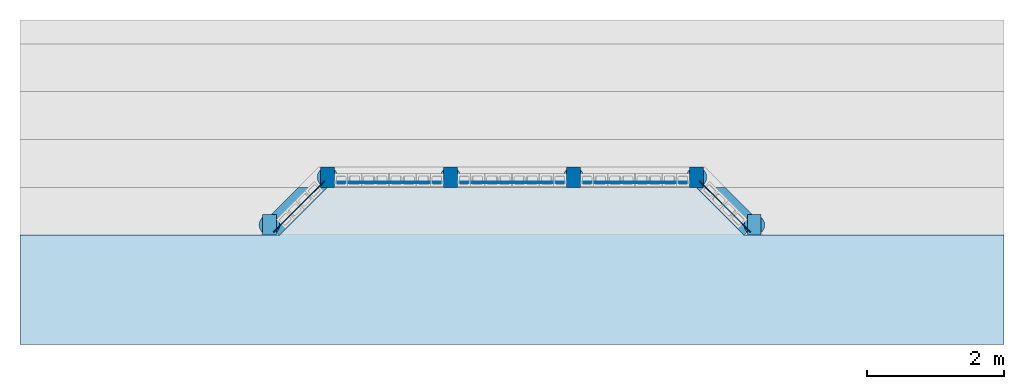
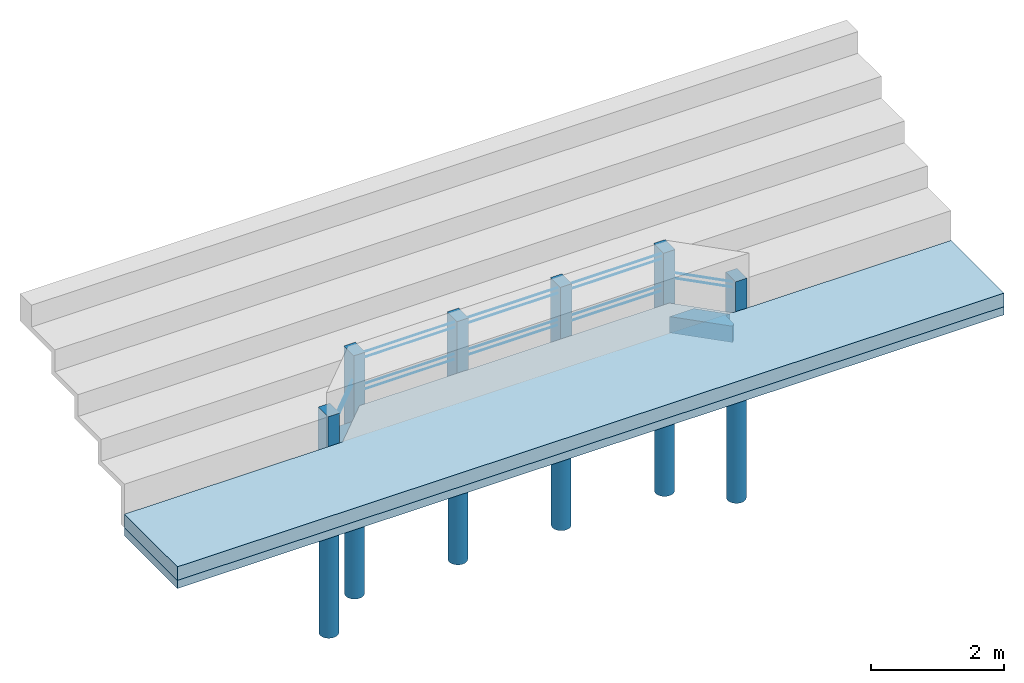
# One storey, part 1 of 4: 16 reinforcing bars, 8 slabs, 6 columns, 2 beams.
"""IFC4 building model written with IfcOpenShell, lengths in centimetres."""

from ifc_helpers import new_model, entity, si_unit, converted_unit, derived_unit, direction, frame, origin, place, context, subcontext, project, spatial, arc, indexed_curve, outline, extrude, polygons, source, transform, mapped, material, type_object, type_shapes, element, save


model = new_model("IFC4")

# Units and contexts
model_context = context("Model", 3, precision=0.001, world=origin(), true_north=direction((6.123233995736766e-17, 1.0)))
body_context = subcontext(model_context, "Body", "Model", "MODEL_VIEW")
ifc_project = project(units=[si_unit("LENGTHUNIT", "METRE", prefix="CENTI"), si_unit("AREAUNIT", "SQUARE_METRE"), converted_unit("PLANEANGLEUNIT", "DEGREE", entity("IfcPlaneAngleMeasure", 0.017453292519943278), si_unit("PLANEANGLEUNIT", "RADIAN"), dimensions=[0, 0, 0, 0, 0, 0, 0]), si_unit("VOLUMEUNIT", "CUBIC_METRE"), derived_unit("THERMALTRANSMITTANCEUNIT", [(si_unit("MASSUNIT", "GRAM", prefix="KILO"), 1), (si_unit("THERMODYNAMICTEMPERATUREUNIT", "KELVIN"), -1), (si_unit("TIMEUNIT", "SECOND"), -3)])], contexts=[model_context])

# Site, building, storey
site_placement = place(None, origin())
site = spatial("IfcSite", under=ifc_project, at=site_placement, Name="Default", CompositionType="ELEMENT")
building_placement = place(site_placement, origin())
building = spatial("IfcBuilding", under=site, at=building_placement, Name="CONTENÇÃO DE ARQUIBANCADA - GINÁSIO PADRÃO", CompositionType="ELEMENT")
storey_placement = place(building_placement, origin())
storey = spatial("IfcBuildingStorey", under=building, at=storey_placement, Name="Nível 1", CompositionType="ELEMENT", Elevation=0.0)

# Columns
ifc_material_1 = material(Name="Concreto C-30", Category="Concreto")
column_type_1 = type_object("IfcColumnType", Name="M_Concreto-Retangular-Coluna1:20x30", PredefinedType="COLUMN", material=ifc_material_1)
shared_shape_1 = source(origin(), body_context, "Body", "SweptSolid", [
    extrude(outline(indexed_curve([(-10.012684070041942, -17.999999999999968), (9.987315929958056, -17.999999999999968), (9.987315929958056, 12.000000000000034), (0.05073628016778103, 12.000000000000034), (-10.012684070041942, 12.000000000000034), (-10.012684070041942, -17.999999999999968)], self_intersect=False)), frame((14.442632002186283, 246.07417522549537, -30.0), z_axis=(0.0, 0.0, 1.0), x_axis=(-1.0, 0.0, 0.0)), (0.0, 0.0, 1.0), 150.0),
])
type_shapes(column_type_1, [shared_shape_1])
column_1_placement = place(storey_placement, origin())
element("IfcColumn", 1, at=column_1_placement, inside=storey, type_object=column_type_1, material=ifc_material_1, Name="M_Concreto-Retangular-Coluna1:20x30", ObjectType="M_Concreto-Retangular-Coluna1:20x30", PredefinedType="COLUMN", context=body_context, shape_type="MappedRepresentation", body=[
    mapped(shared_shape_1, transform((0.0, 0.0, 0.0), scale=1.0)),
])
column_type_2 = type_object("IfcColumnType", Name="M_Concreto-Retangular-Coluna1:20x30", PredefinedType="COLUMN", material=ifc_material_1)
shared_shape_2 = source(origin(), body_context, "Body", "SweptSolid", [
    extrude(outline(indexed_curve([(-7.9057286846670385, -14.165820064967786), (-0.4713565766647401, -14.165820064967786), (12.094271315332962, -14.165820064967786), (12.094271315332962, 15.834179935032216), (-7.9057286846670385, 15.834179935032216), (-7.9057286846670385, 10.829100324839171), (-7.9057286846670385, -14.165820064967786)], self_intersect=False)), frame((-68.45041261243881, 179.90835516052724, -30.0), z_axis=(0.0, 0.0, 1.0), x_axis=(-1.0, 0.0, 0.0)), (0.0, 0.0, 1.0), 110.0),
])
type_shapes(column_type_2, [shared_shape_2])
column_2_placement = place(storey_placement, origin())
element("IfcColumn", 2, at=column_2_placement, inside=storey, type_object=column_type_2, material=ifc_material_1, Name="M_Concreto-Retangular-Coluna1:20x30", ObjectType="M_Concreto-Retangular-Coluna1:20x30", PredefinedType="COLUMN", context=body_context, shape_type="MappedRepresentation", body=[
    mapped(shared_shape_2, transform((0.0, 0.0, 0.0), scale=1.0)),
])
column_type_3 = type_object("IfcColumnType", Name="M_Concreto-Retangular-Coluna1:20x30", PredefinedType="COLUMN", material=ifc_material_1)
shared_shape_3 = source(origin(), body_context, "Body", "SweptSolid", [
    extrude(outline(indexed_curve([(-10.050604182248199, -18.00000000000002), (9.949395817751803, -18.00000000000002), (9.949395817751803, 11.999999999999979), (0.2024167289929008, 11.999999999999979), (-10.050604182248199, 11.999999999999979), (-10.050604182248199, -18.00000000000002)], self_intersect=False)), frame((554.40471188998, 246.07417522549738, -30.0), z_axis=(0.0, 0.0, 1.0), x_axis=(-1.0, 0.0, 0.0)), (0.0, 0.0, 1.0), 150.0),
])
type_shapes(column_type_3, [shared_shape_3])
column_3_placement = place(storey_placement, origin())
element("IfcColumn", 3, at=column_3_placement, inside=storey, type_object=column_type_3, material=ifc_material_1, Name="M_Concreto-Retangular-Coluna1:20x30", ObjectType="M_Concreto-Retangular-Coluna1:20x30", PredefinedType="COLUMN", context=body_context, shape_type="MappedRepresentation", body=[
    mapped(shared_shape_3, transform((0.0, 0.0, 0.0), scale=1.0)),
])
column_type_4 = type_object("IfcColumnType", Name="M_Concreto-Retangular-Coluna1:20x30", PredefinedType="COLUMN", material=ifc_material_1)
shared_shape_4 = source(origin(), body_context, "Body", "SweptSolid", [
    extrude(outline(indexed_curve([(-12.095598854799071, -14.166666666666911), (0.47799427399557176, -14.166666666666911), (7.9044011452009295, -14.166666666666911), (7.9044011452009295, 10.833333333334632), (7.9044011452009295, 15.83333333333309), (-12.095598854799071, 15.83333333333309), (-12.095598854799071, -14.166666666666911)], self_intersect=False)), frame((637.1066963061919, 179.90750855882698, -30.0), z_axis=(0.0, 0.0, 1.0), x_axis=(-1.0, 0.0, 0.0)), (0.0, 0.0, 1.0), 110.0),
])
type_shapes(column_type_4, [shared_shape_4])
column_4_placement = place(storey_placement, origin())
element("IfcColumn", 4, at=column_4_placement, inside=storey, type_object=column_type_4, material=ifc_material_1, Name="M_Concreto-Retangular-Coluna1:20x30", ObjectType="M_Concreto-Retangular-Coluna1:20x30", PredefinedType="COLUMN", context=body_context, shape_type="MappedRepresentation", body=[
    mapped(shared_shape_4, transform((0.0, 0.0, 0.0), scale=1.0)),
])
column_type_5 = type_object("IfcColumnType", Name="M_Concreto-Retangular-Coluna1:20x30", PredefinedType="COLUMN", material=ifc_material_1)
shared_shape_5 = source(origin(), body_context, "Body", "SweptSolid", [
    extrude(outline(indexed_curve([(-10.0, -15.0), (10.0, -15.0), (10.0, 15.0), (-10.0, 15.0), (-10.0, -15.0)], self_intersect=False)), frame((374.45531607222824, 249.07417522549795, -30.0), z_axis=(0.0, 0.0, 1.0), x_axis=(-1.0, 0.0, 0.0)), (0.0, 0.0, 1.0), 150.0),
])
type_shapes(column_type_5, [shared_shape_5])
column_5_placement = place(storey_placement, origin())
element("IfcColumn", 5, at=column_5_placement, inside=storey, type_object=column_type_5, material=ifc_material_1, Name="M_Concreto-Retangular-Coluna1:20x30", ObjectType="M_Concreto-Retangular-Coluna1:20x30", PredefinedType="COLUMN", context=body_context, shape_type="MappedRepresentation", body=[
    mapped(shared_shape_5, transform((0.0, 0.0, 0.0), scale=1.0)),
])
column_type_6 = type_object("IfcColumnType", Name="M_Concreto-Retangular-Coluna1:20x30", PredefinedType="COLUMN", material=ifc_material_1)
shared_shape_6 = source(origin(), body_context, "Body", "SweptSolid", [
    extrude(outline(indexed_curve([(-10.0, -15.0), (10.0, -15.0), (10.0, 15.0), (-10.0, 15.0), (-10.0, -15.0)], self_intersect=False)), frame((194.45531607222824, 249.07417522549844, -30.0), z_axis=(0.0, 0.0, 1.0), x_axis=(-1.0, 0.0, 0.0)), (0.0, 0.0, 1.0), 150.0),
])
type_shapes(column_type_6, [shared_shape_6])
column_6_placement = place(storey_placement, origin())
element("IfcColumn", 6, at=column_6_placement, inside=storey, type_object=column_type_6, material=ifc_material_1, Name="M_Concreto-Retangular-Coluna1:20x30", ObjectType="M_Concreto-Retangular-Coluna1:20x30", PredefinedType="COLUMN", context=body_context, shape_type="MappedRepresentation", body=[
    mapped(shared_shape_6, transform((0.0, 0.0, 0.0), scale=1.0)),
])

# Beams
beam_type_1 = type_object("IfcBeamType", Name="Concreto-Viga Retangular1:30x30", PredefinedType="BEAM", material=ifc_material_1)
shared_shape_7 = source(origin(), body_context, "Body", "Tessellation", [
    polygons([(42.42640687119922, 69.99999999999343, 29.999999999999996), (10.253020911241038, 69.99999999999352, 29.999999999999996), (0.0, 69.99999999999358, 29.999999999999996), (70.00000000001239, 2.842170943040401e-14, 29.999999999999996), (75.00000000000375, 4.9999999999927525, 29.999999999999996), (75.00000000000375, 29.99999999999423, 29.999999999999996), (82.42640687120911, 29.99999999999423, 29.999999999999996), (0.0, 69.9999999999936, 15.00000000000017), (0.0, 69.99999999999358, 3.552713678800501e-15), (70.0000000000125, 2.842170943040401e-14, 3.552713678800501e-15), (70.0000000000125, 0.0, 15.00000000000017), (10.253020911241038, 69.99999999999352, 3.552713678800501e-15), (42.42640687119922, 69.99999999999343, 3.552713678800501e-15), (82.42640687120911, 29.99999999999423, 3.552713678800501e-15), (75.00000000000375, 29.99999999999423, 6.039613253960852e-14), (75.00000000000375, 4.999999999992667, 3.552713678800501e-15)], [[[1, 2, 3, 4, 5, 6, 7]], [[4, 3, 8, 9, 10, 11]], [[9, 12, 13, 14, 15, 16, 10]], [[13, 1, 7, 14]], [[3, 2, 1, 13, 12, 9, 8]], [[15, 6, 5, 16]], [[6, 15, 14, 7]], [[5, 4, 11, 10, 16]]], closed=True),
])
type_shapes(beam_type_1, [shared_shape_7])
beam_1_placement = place(storey_placement, frame((554.2022951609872, 164.07417522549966, -30.0)))
element("IfcBeam", 7, at=beam_1_placement, inside=storey, type_object=beam_type_1, material=ifc_material_1, Name="Concreto-Viga Retangular1:30x30", ObjectType="Concreto-Viga Retangular1:30x30", PredefinedType="BEAM", context=body_context, shape_type="MappedRepresentation", body=[
    mapped(shared_shape_7, transform((0.0, 0.0, 0.0), scale=1.0)),
])
beam_type_2 = type_object("IfcBeamType", Name="Concreto-Viga Retangular1:30x30", PredefinedType="BEAM", material=ifc_material_1)
shared_shape_8 = source(origin(), body_context, "Body", "Tessellation", [
    polygons([(82.37095175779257, 69.9951908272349, 29.999999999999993), (72.43437210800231, 69.99519082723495, 29.999999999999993), (39.96375979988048, 69.99519082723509, 29.999999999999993), (2.842170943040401e-14, 29.995190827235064, 29.999999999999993), (7.434372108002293, 29.995190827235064, 29.999999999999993), (7.434372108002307, 5.000270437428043, 29.999999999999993), (12.439176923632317, -2.842170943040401e-14, 29.999999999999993), (39.963759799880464, 69.99519082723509, 0.0), (1.4210854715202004e-14, 29.995190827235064, 0.0), (72.43437210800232, 69.99519082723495, 0.0), (82.37095175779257, 69.9951908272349, 0.0), (12.439176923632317, -2.842170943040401e-14, 0.0), (7.434372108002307, 5.000270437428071, 0.0), (7.434372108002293, 29.995190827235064, 5.684341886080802e-14), (82.37095175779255, 69.99519082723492, 15.000000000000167), (12.439176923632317, 0.0, 15.000000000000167)], [[[1, 2, 3, 4, 5, 6, 7]], [[3, 8, 9, 4]], [[8, 10, 11, 12, 13, 14, 9]], [[11, 15, 1, 7, 16, 12]], [[3, 2, 1, 15, 11, 10, 8]], [[16, 7, 6, 13, 12]], [[5, 14, 13, 6]], [[14, 5, 4, 9]]], closed=True),
])
type_shapes(beam_type_2, [shared_shape_8])
beam_2_placement = place(storey_placement, frame((-67.97905603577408, 164.07898439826, -30.0)))
element("IfcBeam", 8, at=beam_2_placement, inside=storey, type_object=beam_type_2, material=ifc_material_1, Name="Concreto-Viga Retangular1:30x30", ObjectType="Concreto-Viga Retangular1:30x30", PredefinedType="BEAM", context=body_context, shape_type="MappedRepresentation", body=[
    mapped(shared_shape_8, transform((0.0, 0.0, 0.0), scale=1.0)),
])

# Slabs
ifc_material_2 = material(Name="Concreto, Moldado in loco, cinza", Category="Concreto")
slab_type_1 = type_object("IfcSlabType", Name="Piso:piso 15", PredefinedType="FLOOR", material=ifc_material_2)
slab_1_placement = place(storey_placement, origin())
element("IfcSlab", 9, at=slab_1_placement, inside=storey, type_object=slab_type_1, material=ifc_material_2, Name="Piso:piso 15", ObjectType="Piso:piso 15", PredefinedType="FLOOR", context=body_context, shape_type="SweptSolid", body=[
    extrude(outline(indexed_curve([(-137.50000000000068, -719.9288172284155), (22.499999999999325, -719.9288172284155), (22.499999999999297, -339.9288172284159), (92.5000000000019, -269.99223757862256), (92.50000000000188, 269.8181618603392), (22.49999999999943, 339.8181618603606), (22.499999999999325, 720.0711827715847), (-137.50000000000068, 720.0711827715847), (-137.50000000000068, -719.9288172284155)], self_intersect=False)), frame((284.3841333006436, 141.57417522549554, 0.0), z_axis=(0.0, 0.0, -1.0), x_axis=(0.0, 1.0, 0.0)), (0.0, 0.0, 1.0), 15.0),
])
ifc_material_3 = material(Name="Material pré-definido de piso", Category="Diversos")
slab_type_2 = type_object("IfcSlabType", Name="Piso:Genérico 250 mm", PredefinedType="FLOOR", material=ifc_material_3)
slab_2_placement = place(storey_placement, origin())
element("IfcSlab", 10, at=slab_2_placement, inside=storey, type_object=slab_type_2, material=ifc_material_3, Name="Piso:Genérico 250 mm", ObjectType="Piso:Genérico 250 mm", PredefinedType="FLOOR", context=body_context, shape_type="SweptSolid", body=[
    extrude(outline(indexed_curve([(-137.49999999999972, -719.9288172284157), (22.500000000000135, -719.9288172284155), (22.500000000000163, -339.928817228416), (92.5000000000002, -269.9922375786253), (92.49999999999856, 269.81816186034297), (22.500000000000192, 339.8181618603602), (22.500000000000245, 720.0711827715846), (-137.49999999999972, 720.0711827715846), (-137.49999999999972, -719.9288172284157)], self_intersect=False)), frame((284.3841333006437, 141.57417522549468, 25.0), z_axis=(0.0, 0.0, -1.0), x_axis=(0.0, 1.0, 0.0)), (0.0, 0.0, 1.0), 25.0),
])
ifc_material_4 = material(Name="Concreto C-25", Category="Concreto")
slab_type_3 = type_object("IfcSlabType", Name="Estaca de concreto:EST30-3m", PredefinedType="BASESLAB", material=ifc_material_4)
slab_3_placement = place(storey_placement, origin())
element("IfcSlab", 11, at=slab_3_placement, inside=storey, type_object=slab_type_3, Name="Estaca de concreto:EST30-3m", ObjectType="Estaca de concreto:EST30-3m", PredefinedType="BASESLAB", context=body_context, shape_type="SweptSolid", body=[
    extrude(outline(indexed_curve([(-15.000000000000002, 0.0), (-1.1167067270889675e-13, -15.000000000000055), (15.0, -5.4143356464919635e-14), (1.8611778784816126e-14, 14.999999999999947)], segments=[arc(1, 2, 3), arc(3, 4, 1)], self_intersect=False)), frame((14.455316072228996, 249.07417522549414, -330.0)), (0.0, 0.0, 1.0), 300.00000000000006),
])
slab_4_placement = place(storey_placement, origin())
element("IfcSlab", 12, at=slab_4_placement, inside=storey, type_object=slab_type_3, Name="Estaca de concreto:EST30-3m", ObjectType="Estaca de concreto:EST30-3m", PredefinedType="BASESLAB", context=body_context, shape_type="SweptSolid", body=[
    extrude(outline(indexed_curve([(-15.000000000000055, 0.0), (-1.0828671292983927e-13, -15.000000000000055), (15.000000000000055, -5.4143356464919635e-14), (0.0, 14.999999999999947)], segments=[arc(1, 2, 3), arc(3, 4, 1)], self_intersect=False)), frame((554.4553160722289, 249.07417522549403, -330.0)), (0.0, 0.0, 1.0), 300.00000000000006),
])
slab_5_placement = place(storey_placement, origin())
element("IfcSlab", 13, at=slab_5_placement, inside=storey, type_object=slab_type_3, Name="Estaca de concreto:EST30-3m", ObjectType="Estaca de concreto:EST30-3m", PredefinedType="BASESLAB", context=body_context, shape_type="SweptSolid", body=[
    extrude(outline(indexed_curve([(-14.999999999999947, 2.7071678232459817e-14), (-1.0828671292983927e-13, -15.000000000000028), (14.999999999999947, -2.7071678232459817e-14), (0.0, 14.999999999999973)], segments=[arc(1, 2, 3), arc(3, 4, 1)], self_intersect=False)), frame((639.2022951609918, 179.07417522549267, -330.0)), (0.0, 0.0, 1.0), 300.00000000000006),
])
slab_6_placement = place(storey_placement, origin())
element("IfcSlab", 14, at=slab_6_placement, inside=storey, type_object=slab_type_3, Name="Estaca de concreto:EST30-3m", ObjectType="Estaca de concreto:EST30-3m", PredefinedType="BASESLAB", context=body_context, shape_type="SweptSolid", body=[
    extrude(outline(indexed_curve([(-15.0, 2.7071678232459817e-14), (-1.0828671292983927e-13, -15.000000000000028), (15.0, -2.7071678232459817e-14), (2.7071678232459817e-14, 14.999999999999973)], segments=[arc(1, 2, 3), arc(3, 4, 1)], self_intersect=False)), frame((-70.54468392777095, 179.0741752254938, -330.0)), (0.0, 0.0, 1.0), 300.00000000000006),
])
slab_7_placement = place(storey_placement, origin())
element("IfcSlab", 15, at=slab_7_placement, inside=storey, type_object=slab_type_3, Name="Estaca de concreto:EST30-3m", ObjectType="Estaca de concreto:EST30-3m", PredefinedType="BASESLAB", context=body_context, shape_type="SweptSolid", body=[
    extrude(outline(indexed_curve([(-15.0, 5.4143356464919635e-14), (-1.0828671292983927e-13, -15.0), (15.0, 0.0), (0.0, 15.0)], segments=[arc(1, 2, 3), arc(3, 4, 1)], self_intersect=False)), frame((374.455316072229, 249.0741752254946, -330.0)), (0.0, 0.0, 1.0), 300.00000000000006),
])
slab_8_placement = place(storey_placement, origin())
element("IfcSlab", 16, at=slab_8_placement, inside=storey, type_object=slab_type_3, Name="Estaca de concreto:EST30-3m", ObjectType="Estaca de concreto:EST30-3m", PredefinedType="BASESLAB", context=body_context, shape_type="SweptSolid", body=[
    extrude(outline(indexed_curve([(-15.0, 0.0), (-1.0828671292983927e-13, -15.000000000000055), (15.0, -5.4143356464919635e-14), (2.7071678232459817e-14, 14.999999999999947)], segments=[arc(1, 2, 3), arc(3, 4, 1)], self_intersect=False)), frame((194.45531607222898, 249.07417522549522, -330.0)), (0.0, 0.0, 1.0), 300.00000000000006),
])

# Reinforcing bars
reinforcing_bar_type = type_object("IfcReinforcingBarType", Name="Barra do vergalhão:12.5 CA-50", PredefinedType="NOTDEFINED")
reinforcing_bar_1_placement = place(storey_placement, origin())
element("IfcReinforcingBar", 17, at=reinforcing_bar_1_placement, inside=storey, type_object=reinforcing_bar_type, Name="Barra do vergalhão:12.5 CA-50 : Forma 01", ObjectType="Barra do vergalhão:12.5 CA-50", context=body_context, shape_type="AdvancedSweptSolid", body=[
    entity("IfcSweptDiskSolid", entity("IfcIndexedPolyCurve", entity("IfcCartesianPointList3D", [[554.4553160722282, 242.07417522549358, 45.99999999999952], [374.45531607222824, 242.07417522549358, 45.9999999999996]]), None, False), 0.625, None, 0.0, 1.0),
])
reinforcing_bar_2_placement = place(storey_placement, origin())
element("IfcReinforcingBar", 18, at=reinforcing_bar_2_placement, inside=storey, type_object=reinforcing_bar_type, Name="Barra do vergalhão:12.5 CA-50 : Forma 01", ObjectType="Barra do vergalhão:12.5 CA-50", context=body_context, shape_type="AdvancedSweptSolid", body=[
    entity("IfcSweptDiskSolid", entity("IfcIndexedPolyCurve", entity("IfcCartesianPointList3D", [[554.4553160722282, 242.07417522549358, 55.99999999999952], [374.45531607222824, 242.07417522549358, 55.9999999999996]]), None, False), 0.625, None, 0.0, 1.0),
])
reinforcing_bar_3_placement = place(storey_placement, origin())
element("IfcReinforcingBar", 19, at=reinforcing_bar_3_placement, inside=storey, type_object=reinforcing_bar_type, Name="Barra do vergalhão:12.5 CA-50 : Forma 01", ObjectType="Barra do vergalhão:12.5 CA-50", context=body_context, shape_type="AdvancedSweptSolid", body=[
    entity("IfcSweptDiskSolid", entity("IfcIndexedPolyCurve", entity("IfcCartesianPointList3D", [[554.4553160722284, 240.5741752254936, 105.99999999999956], [374.45531607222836, 240.5741752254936, 105.99999999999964]]), None, False), 0.625, None, 0.0, 1.0),
])
reinforcing_bar_4_placement = place(storey_placement, origin())
element("IfcReinforcingBar", 20, at=reinforcing_bar_4_placement, inside=storey, type_object=reinforcing_bar_type, Name="Barra do vergalhão:12.5 CA-50 : Forma 01", ObjectType="Barra do vergalhão:12.5 CA-50", context=body_context, shape_type="AdvancedSweptSolid", body=[
    entity("IfcSweptDiskSolid", entity("IfcIndexedPolyCurve", entity("IfcCartesianPointList3D", [[554.4553160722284, 240.5741752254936, 115.99999999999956], [374.45531607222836, 240.5741752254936, 115.99999999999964]]), None, False), 0.625, None, 0.0, 1.0),
])
reinforcing_bar_5_placement = place(storey_placement, origin())
element("IfcReinforcingBar", 21, at=reinforcing_bar_5_placement, inside=storey, type_object=reinforcing_bar_type, Name="Barra do vergalhão:12.5 CA-50 : Forma 01", ObjectType="Barra do vergalhão:12.5 CA-50", context=body_context, shape_type="AdvancedSweptSolid", body=[
    entity("IfcSweptDiskSolid", entity("IfcIndexedPolyCurve", entity("IfcCartesianPointList3D", [[9.96702590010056, 243.09923861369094, 64.99999999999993], [-64.24552954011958, 168.81938525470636, 64.99999999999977]]), None, False), 0.625, None, 0.0, 1.0),
])
reinforcing_bar_6_placement = place(storey_placement, origin())
element("IfcReinforcingBar", 22, at=reinforcing_bar_6_placement, inside=storey, type_object=reinforcing_bar_type, Name="Barra do vergalhão:12.5 CA-50 : Forma 01", ObjectType="Barra do vergalhão:12.5 CA-50", context=body_context, shape_type="AdvancedSweptSolid", body=[
    entity("IfcSweptDiskSolid", entity("IfcIndexedPolyCurve", entity("IfcCartesianPointList3D", [[9.967025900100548, 243.09923861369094, 74.99999999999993], [-64.24552954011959, 168.81938525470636, 74.99999999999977]]), None, False), 0.625, None, 0.0, 1.0),
])
reinforcing_bar_7_placement = place(storey_placement, origin())
element("IfcReinforcingBar", 23, at=reinforcing_bar_7_placement, inside=storey, type_object=reinforcing_bar_type, Name="Barra do vergalhão:12.5 CA-50 : Forma 01", ObjectType="Barra do vergalhão:12.5 CA-50", context=body_context, shape_type="AdvancedSweptSolid", body=[
    entity("IfcSweptDiskSolid", entity("IfcIndexedPolyCurve", entity("IfcCartesianPointList3D", [[558.9436062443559, 243.09923861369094, 64.99999999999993], [633.1561616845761, 168.81938525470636, 64.99999999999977]]), None, False), 0.625, None, 0.0, 1.0),
])
reinforcing_bar_8_placement = place(storey_placement, origin())
element("IfcReinforcingBar", 24, at=reinforcing_bar_8_placement, inside=storey, type_object=reinforcing_bar_type, Name="Barra do vergalhão:12.5 CA-50 : Forma 01", ObjectType="Barra do vergalhão:12.5 CA-50", context=body_context, shape_type="AdvancedSweptSolid", body=[
    entity("IfcSweptDiskSolid", entity("IfcIndexedPolyCurve", entity("IfcCartesianPointList3D", [[558.9436062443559, 243.09923861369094, 74.99999999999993], [633.1561616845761, 168.81938525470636, 74.99999999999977]]), None, False), 0.625, None, 0.0, 1.0),
])
reinforcing_bar_9_placement = place(storey_placement, origin())
element("IfcReinforcingBar", 25, at=reinforcing_bar_9_placement, inside=storey, type_object=reinforcing_bar_type, Name="Barra do vergalhão:12.5 CA-50 : Forma 01", ObjectType="Barra do vergalhão:12.5 CA-50", context=body_context, shape_type="AdvancedSweptSolid", body=[
    entity("IfcSweptDiskSolid", entity("IfcIndexedPolyCurve", entity("IfcCartesianPointList3D", [[374.45531607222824, 242.07417522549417, 45.99999999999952], [194.45531607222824, 242.07417522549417, 45.9999999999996]]), None, False), 0.625, None, 0.0, 1.0),
])
reinforcing_bar_10_placement = place(storey_placement, origin())
element("IfcReinforcingBar", 26, at=reinforcing_bar_10_placement, inside=storey, type_object=reinforcing_bar_type, Name="Barra do vergalhão:12.5 CA-50 : Forma 01", ObjectType="Barra do vergalhão:12.5 CA-50", context=body_context, shape_type="AdvancedSweptSolid", body=[
    entity("IfcSweptDiskSolid", entity("IfcIndexedPolyCurve", entity("IfcCartesianPointList3D", [[374.45531607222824, 242.07417522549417, 55.99999999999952], [194.45531607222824, 242.07417522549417, 55.9999999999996]]), None, False), 0.625, None, 0.0, 1.0),
])
reinforcing_bar_11_placement = place(storey_placement, origin())
element("IfcReinforcingBar", 27, at=reinforcing_bar_11_placement, inside=storey, type_object=reinforcing_bar_type, Name="Barra do vergalhão:12.5 CA-50 : Forma 01", ObjectType="Barra do vergalhão:12.5 CA-50", context=body_context, shape_type="AdvancedSweptSolid", body=[
    entity("IfcSweptDiskSolid", entity("IfcIndexedPolyCurve", entity("IfcCartesianPointList3D", [[374.45531607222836, 240.5741752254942, 105.99999999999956], [194.45531607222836, 240.5741752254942, 105.99999999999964]]), None, False), 0.625, None, 0.0, 1.0),
])
reinforcing_bar_12_placement = place(storey_placement, origin())
element("IfcReinforcingBar", 28, at=reinforcing_bar_12_placement, inside=storey, type_object=reinforcing_bar_type, Name="Barra do vergalhão:12.5 CA-50 : Forma 01", ObjectType="Barra do vergalhão:12.5 CA-50", context=body_context, shape_type="AdvancedSweptSolid", body=[
    entity("IfcSweptDiskSolid", entity("IfcIndexedPolyCurve", entity("IfcCartesianPointList3D", [[374.45531607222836, 240.5741752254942, 115.99999999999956], [194.45531607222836, 240.5741752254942, 115.99999999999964]]), None, False), 0.625, None, 0.0, 1.0),
])
reinforcing_bar_13_placement = place(storey_placement, origin())
element("IfcReinforcingBar", 29, at=reinforcing_bar_13_placement, inside=storey, type_object=reinforcing_bar_type, Name="Barra do vergalhão:12.5 CA-50 : Forma 01", ObjectType="Barra do vergalhão:12.5 CA-50", context=body_context, shape_type="AdvancedSweptSolid", body=[
    entity("IfcSweptDiskSolid", entity("IfcIndexedPolyCurve", entity("IfcCartesianPointList3D", [[194.45531607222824, 242.07417522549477, 45.99999999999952], [14.45531607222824, 242.07417522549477, 45.9999999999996]]), None, False), 0.625, None, 0.0, 1.0),
])
reinforcing_bar_14_placement = place(storey_placement, origin())
element("IfcReinforcingBar", 30, at=reinforcing_bar_14_placement, inside=storey, type_object=reinforcing_bar_type, Name="Barra do vergalhão:12.5 CA-50 : Forma 01", ObjectType="Barra do vergalhão:12.5 CA-50", context=body_context, shape_type="AdvancedSweptSolid", body=[
    entity("IfcSweptDiskSolid", entity("IfcIndexedPolyCurve", entity("IfcCartesianPointList3D", [[194.45531607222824, 242.07417522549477, 55.99999999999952], [14.45531607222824, 242.07417522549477, 55.9999999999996]]), None, False), 0.625, None, 0.0, 1.0),
])
reinforcing_bar_15_placement = place(storey_placement, origin())
element("IfcReinforcingBar", 31, at=reinforcing_bar_15_placement, inside=storey, type_object=reinforcing_bar_type, Name="Barra do vergalhão:12.5 CA-50 : Forma 01", ObjectType="Barra do vergalhão:12.5 CA-50", context=body_context, shape_type="AdvancedSweptSolid", body=[
    entity("IfcSweptDiskSolid", entity("IfcIndexedPolyCurve", entity("IfcCartesianPointList3D", [[194.45531607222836, 240.5741752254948, 105.99999999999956], [14.455316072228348, 240.5741752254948, 105.99999999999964]]), None, False), 0.625, None, 0.0, 1.0),
])
reinforcing_bar_16_placement = place(storey_placement, origin())
element("IfcReinforcingBar", 32, at=reinforcing_bar_16_placement, inside=storey, type_object=reinforcing_bar_type, Name="Barra do vergalhão:12.5 CA-50 : Forma 01", ObjectType="Barra do vergalhão:12.5 CA-50", context=body_context, shape_type="AdvancedSweptSolid", body=[
    entity("IfcSweptDiskSolid", entity("IfcIndexedPolyCurve", entity("IfcCartesianPointList3D", [[194.45531607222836, 240.5741752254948, 115.99999999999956], [14.455316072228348, 240.5741752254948, 115.99999999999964]]), None, False), 0.625, None, 0.0, 1.0),
])

save(model, "model.ifc")
